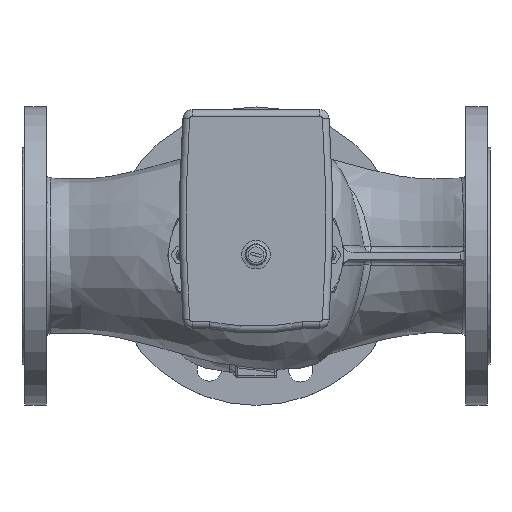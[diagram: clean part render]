
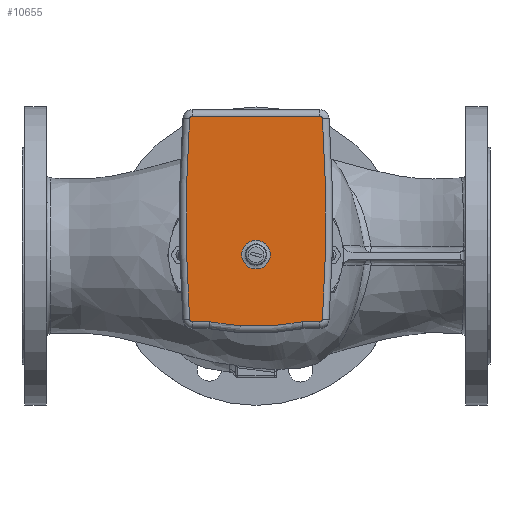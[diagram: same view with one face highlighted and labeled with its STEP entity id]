
A CAD part, top view. The second image highlights one B-rep face of the part: STEP entity #10655.
In plain terms, the highlighted planar face has unit normal (0, 0, 1).
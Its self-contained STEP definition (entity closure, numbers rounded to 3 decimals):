
#576=LINE('',#24743,#1160);
#577=LINE('',#24747,#1161);
#578=LINE('',#24755,#1162);
#1160=VECTOR('',#17412,1000.);
#1161=VECTOR('',#17415,1000.);
#1162=VECTOR('',#17422,1000.);
#1599=PLANE('',#15263);
#3613=ORIENTED_EDGE('',*,*,#5908,.T.);
#3614=ORIENTED_EDGE('',*,*,#5909,.T.);
#3615=ORIENTED_EDGE('',*,*,#5910,.T.);
#3616=ORIENTED_EDGE('',*,*,#5911,.T.);
#3617=ORIENTED_EDGE('',*,*,#5912,.T.);
#3618=ORIENTED_EDGE('',*,*,#5913,.T.);
#3619=ORIENTED_EDGE('',*,*,#5914,.T.);
#3620=ORIENTED_EDGE('',*,*,#5915,.T.);
#3621=ORIENTED_EDGE('',*,*,#5916,.T.);
#3622=ORIENTED_EDGE('',*,*,#5917,.T.);
#3623=ORIENTED_EDGE('',*,*,#5918,.T.);
#5908=EDGE_CURVE('',#7192,#7192,#7996,.T.);
#5909=EDGE_CURVE('',#7193,#7194,#7997,.F.);
#5910=EDGE_CURVE('',#7194,#7195,#576,.F.);
#5911=EDGE_CURVE('',#7195,#7196,#7998,.F.);
#5912=EDGE_CURVE('',#7196,#7197,#577,.F.);
#5913=EDGE_CURVE('',#7197,#7198,#7999,.F.);
#5914=EDGE_CURVE('',#7198,#7199,#8000,.F.);
#5915=EDGE_CURVE('',#7199,#7200,#8001,.F.);
#5916=EDGE_CURVE('',#7200,#7201,#578,.F.);
#5917=EDGE_CURVE('',#7201,#7202,#8002,.F.);
#5918=EDGE_CURVE('',#7202,#7193,#8003,.F.);
#7192=VERTEX_POINT('',#24738);
#7193=VERTEX_POINT('',#24741);
#7194=VERTEX_POINT('',#24742);
#7195=VERTEX_POINT('',#24744);
#7196=VERTEX_POINT('',#24746);
#7197=VERTEX_POINT('',#24748);
#7198=VERTEX_POINT('',#24750);
#7199=VERTEX_POINT('',#24752);
#7200=VERTEX_POINT('',#24754);
#7201=VERTEX_POINT('',#24756);
#7202=VERTEX_POINT('',#24758);
#7996=CIRCLE('',#15262,10.521);
#7997=CIRCLE('',#15264,1.964);
#7998=CIRCLE('',#15265,169.964);
#7999=CIRCLE('',#15266,1.964);
#8000=CIRCLE('',#15267,1096.964);
#8001=CIRCLE('',#15268,1.964);
#8002=CIRCLE('',#15269,1.964);
#8003=CIRCLE('',#15270,1096.964);
#8757=EDGE_LOOP('',(#3613));
#8758=EDGE_LOOP('',(#3614,#3615,#3616,#3617,#3618,#3619,#3620,#3621,#3622,
#3623));
#9701=FACE_BOUND('',#8757,.T.);
#9702=FACE_BOUND('',#8758,.T.);
#10655=ADVANCED_FACE('',(#9701,#9702),#1599,.F.);
#15262=AXIS2_PLACEMENT_3D('',#24737,#17406,#17407);
#15263=AXIS2_PLACEMENT_3D('',#24739,#17408,#17409);
#15264=AXIS2_PLACEMENT_3D('',#24740,#17410,#17411);
#15265=AXIS2_PLACEMENT_3D('',#24745,#17413,#17414);
#15266=AXIS2_PLACEMENT_3D('',#24749,#17416,#17417);
#15267=AXIS2_PLACEMENT_3D('',#24751,#17418,#17419);
#15268=AXIS2_PLACEMENT_3D('',#24753,#17420,#17421);
#15269=AXIS2_PLACEMENT_3D('',#24757,#17423,#17424);
#15270=AXIS2_PLACEMENT_3D('',#24759,#17425,#17426);
#17406=DIRECTION('',(0.,0.,-1.));
#17407=DIRECTION('',(-1.,0.,0.));
#17408=DIRECTION('',(0.,0.,-1.));
#17409=DIRECTION('',(-1.,0.,0.));
#17410=DIRECTION('',(0.,0.,-1.));
#17411=DIRECTION('',(-1.,0.,0.));
#17412=DIRECTION('',(0.,1.,0.));
#17413=DIRECTION('',(0.,0.,-1.));
#17414=DIRECTION('',(-1.,0.,0.));
#17415=DIRECTION('',(0.,1.,0.));
#17416=DIRECTION('',(0.,0.,-1.));
#17417=DIRECTION('',(-1.,0.,0.));
#17418=DIRECTION('',(0.,0.,-1.));
#17419=DIRECTION('',(-1.,0.,0.));
#17420=DIRECTION('',(0.,0.,-1.));
#17421=DIRECTION('',(-1.,0.,0.));
#17422=DIRECTION('',(0.,-1.,0.));
#17423=DIRECTION('',(0.,0.,-1.));
#17424=DIRECTION('',(-1.,0.,0.));
#17425=DIRECTION('',(0.,0.,-1.));
#17426=DIRECTION('',(-1.,0.,0.));
#24737=CARTESIAN_POINT('',(0.,0.,109.084));
#24738=CARTESIAN_POINT('',(-10.521,0.,109.084));
#24739=CARTESIAN_POINT('',(0.,0.,109.084));
#24740=CARTESIAN_POINT('',(-47.508,47.,109.084));
#24741=CARTESIAN_POINT('',(-47.64,48.96,109.084));
#24742=CARTESIAN_POINT('',(-49.472,47.,109.084));
#24743=CARTESIAN_POINT('',(-49.472,34.599,109.084));
#24744=CARTESIAN_POINT('',(-49.472,34.096,109.084));
#24745=CARTESIAN_POINT('',(117.037,0.,109.084));
#24746=CARTESIAN_POINT('',(-49.472,-34.096,109.084));
#24747=CARTESIAN_POINT('',(-49.472,-47.,109.084));
#24748=CARTESIAN_POINT('',(-49.472,-47.,109.084));
#24749=CARTESIAN_POINT('',(-47.508,-47.,109.084));
#24750=CARTESIAN_POINT('',(-47.64,-48.96,109.084));
#24751=CARTESIAN_POINT('',(26.246,1045.513,109.084));
#24752=CARTESIAN_POINT('',(100.132,-48.96,109.084));
#24753=CARTESIAN_POINT('',(100.,-47.,109.084));
#24754=CARTESIAN_POINT('',(101.964,-47.,109.084));
#24755=CARTESIAN_POINT('',(101.964,47.,109.084));
#24756=CARTESIAN_POINT('',(101.964,47.,109.084));
#24757=CARTESIAN_POINT('',(100.,47.,109.084));
#24758=CARTESIAN_POINT('',(100.132,48.96,109.084));
#24759=CARTESIAN_POINT('',(26.246,-1045.513,109.084));
